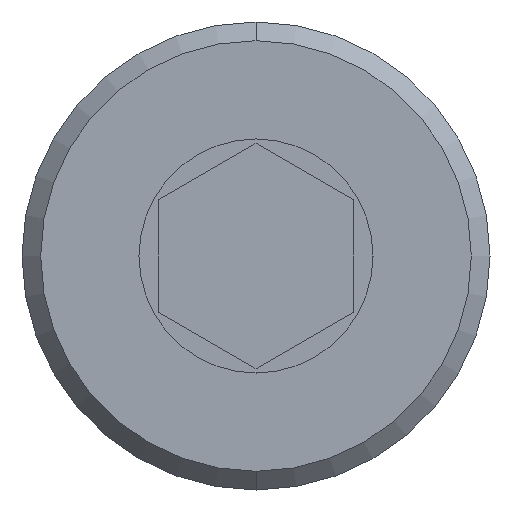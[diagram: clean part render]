
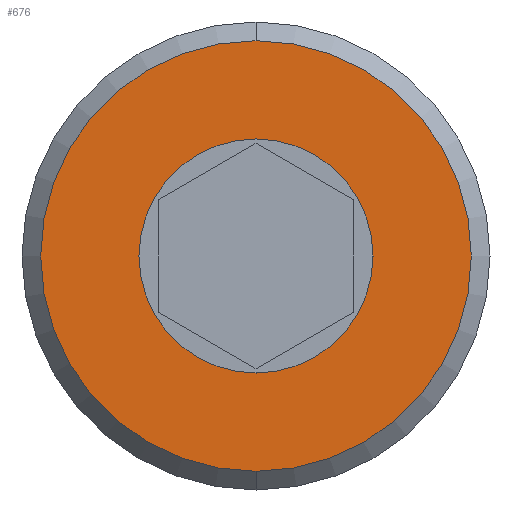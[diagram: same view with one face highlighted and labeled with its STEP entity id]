
A CAD part, front view. The second image highlights one B-rep face of the part: STEP entity #676.
In plain terms, the highlighted planar face has unit normal (0, -1, 0).
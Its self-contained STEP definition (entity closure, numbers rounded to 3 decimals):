
#676 = ADVANCED_FACE ( 'NONE', ( #5179, #11452 ), #9574, .T. ) ;
#792 = ORIENTED_EDGE ( 'NONE', *, *, #3975, .T. ) ;
#1408 = EDGE_LOOP ( 'NONE', ( #6318, #2721 ) ) ;
#1541 = VERTEX_POINT ( 'NONE', #10011 ) ;
#1669 = CARTESIAN_POINT ( 'NONE',  ( 0., -17., 0. ) ) ;
#1936 = CARTESIAN_POINT ( 'NONE',  ( 0., -17., -2.76 ) ) ;
#1979 = ORIENTED_EDGE ( 'NONE', *, *, #8140, .T. ) ;
#2311 = DIRECTION ( 'NONE',  ( 0., 0., -1. ) ) ;
#2456 = DIRECTION ( 'NONE',  ( 0., -1., 0. ) ) ;
#2721 = ORIENTED_EDGE ( 'NONE', *, *, #6528, .F. ) ;
#3069 = VERTEX_POINT ( 'NONE', #10073 ) ;
#3164 = AXIS2_PLACEMENT_3D ( 'NONE', #3368, #9632, #2311 ) ;
#3368 = CARTESIAN_POINT ( 'NONE',  ( 1.5, -17., 0. ) ) ;
#3584 = AXIS2_PLACEMENT_3D ( 'NONE', #1669, #7993, #5183 ) ;
#3871 = DIRECTION ( 'NONE',  ( 0., 0., -1. ) ) ;
#3946 = CIRCLE ( 'NONE', #6192, 1.5 ) ;
#3975 = EDGE_CURVE ( 'NONE', #1541, #7662, #10144, .T. ) ;
#4133 = CIRCLE ( 'NONE', #10678, 1.5 ) ;
#4187 = AXIS2_PLACEMENT_3D ( 'NONE', #9139, #6450, #3871 ) ;
#5179 = FACE_OUTER_BOUND ( 'NONE', #8470, .T. ) ;
#5183 = DIRECTION ( 'NONE',  ( 0., 0., -1. ) ) ;
#5604 = EDGE_CURVE ( 'NONE', #3069, #9494, #3946, .T. ) ;
#5881 = DIRECTION ( 'NONE',  ( 0., 0., -1. ) ) ;
#6192 = AXIS2_PLACEMENT_3D ( 'NONE', #10654, #2456, #6269 ) ;
#6269 = DIRECTION ( 'NONE',  ( 0., 0., -1. ) ) ;
#6318 = ORIENTED_EDGE ( 'NONE', *, *, #5604, .F. ) ;
#6450 = DIRECTION ( 'NONE',  ( 0., -1., 0. ) ) ;
#6528 = EDGE_CURVE ( 'NONE', #9494, #3069, #4133, .T. ) ;
#6864 = CARTESIAN_POINT ( 'NONE',  ( 0., -17., 0. ) ) ;
#6926 = DIRECTION ( 'NONE',  ( 0., -1., 0. ) ) ;
#7136 = CIRCLE ( 'NONE', #3584, 2.76 ) ;
#7662 = VERTEX_POINT ( 'NONE', #1936 ) ;
#7993 = DIRECTION ( 'NONE',  ( 0., -1., 0. ) ) ;
#8140 = EDGE_CURVE ( 'NONE', #7662, #1541, #7136, .T. ) ;
#8470 = EDGE_LOOP ( 'NONE', ( #792, #1979 ) ) ;
#8646 = CARTESIAN_POINT ( 'NONE',  ( 0., -17., 1.5 ) ) ;
#9139 = CARTESIAN_POINT ( 'NONE',  ( 0., -17., 0. ) ) ;
#9494 = VERTEX_POINT ( 'NONE', #8646 ) ;
#9574 = PLANE ( 'NONE',  #3164 ) ;
#9632 = DIRECTION ( 'NONE',  ( 0., -1., 0. ) ) ;
#10011 = CARTESIAN_POINT ( 'NONE',  ( 0., -17., 2.76 ) ) ;
#10073 = CARTESIAN_POINT ( 'NONE',  ( 0., -17., -1.5 ) ) ;
#10144 = CIRCLE ( 'NONE', #4187, 2.76 ) ;
#10654 = CARTESIAN_POINT ( 'NONE',  ( 0., -17., 0. ) ) ;
#10678 = AXIS2_PLACEMENT_3D ( 'NONE', #6864, #6926, #5881 ) ;
#11452 = FACE_BOUND ( 'NONE', #1408, .T. ) ;
